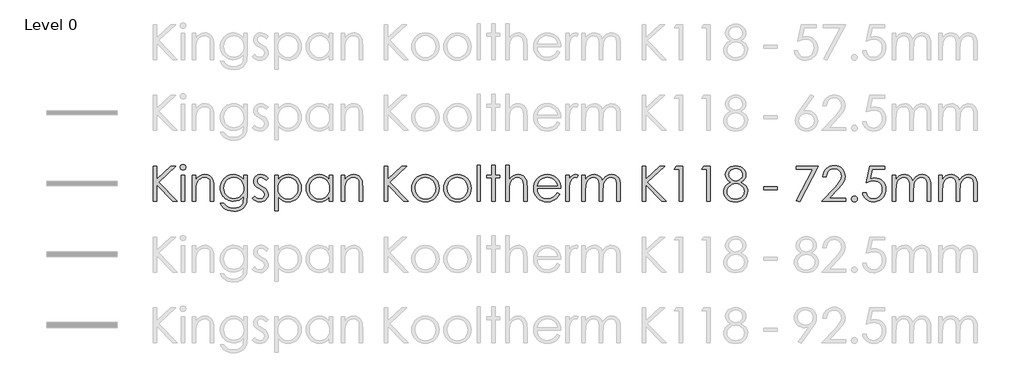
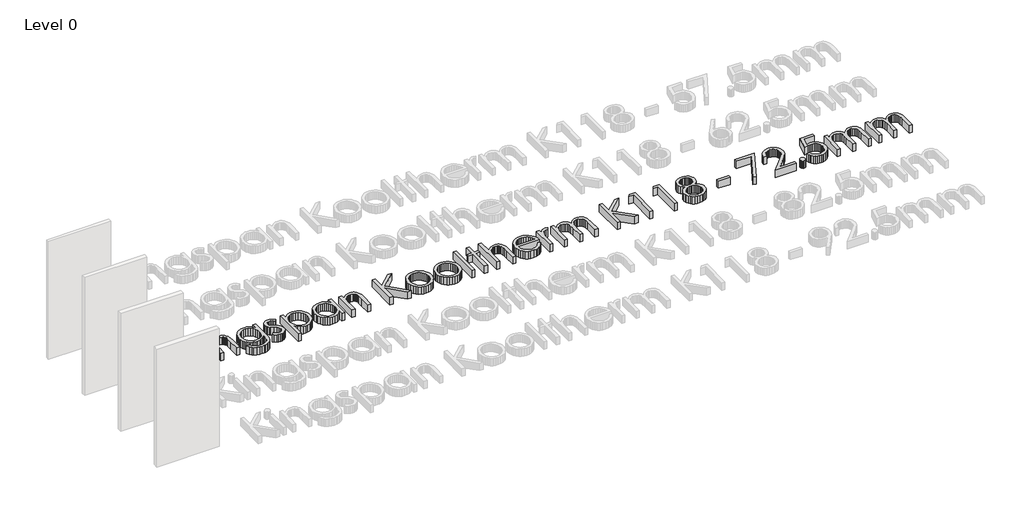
# One storey, part 3 of 8: 1 proxy.
"""IFC4 building model written with IfcOpenShell, lengths in millimetres."""

from ifc_helpers import new_model, si_unit, origin, origin_with_axes, place, context, project, spatial, polyline, outline, extrude, element, save

model = new_model("IFC4")

# Units and contexts
model_context = context("Model", 3, world=origin())
ifc_project = project(units=[si_unit("LENGTHUNIT", "METRE", prefix="MILLI")], contexts=[model_context])

# Site, building, storey
site = spatial("IfcSite", under=ifc_project)
building = spatial("IfcBuilding", under=site)
storey = spatial("IfcBuildingStorey", under=building, Name="Level 0", Elevation=0.0)

# Proxy
placement = place(None, origin())
element("IfcBuildingElementProxy", 1, Name="600mm KI_CenturyGothic", ObjectType="600mm KI_CenturyGothic", at=placement, inside=storey, context=model_context, shape_type="SweptSolid", body=[
    extrude(outline(polyline([(-3852.2663848, -99.1034017), (-3792.944575, -99.1034017), (-3792.944575, -318.316027), (-3555.1938841, -99.1034017), (-3471.6181051, -99.1034017), (-3760.9664119, -366.0515459), (-3441.9572002, -692.3214999), (-3520.8984627, -692.3214999), (-3792.944575, -414.0960325), (-3792.944575, -692.3214999), (-3852.2663848, -692.3214999), (-3852.2663848, -99.1034017)])), origin_with_axes(), (0.0, 0.0, 1.0), 150.0),
    extrude(outline(polyline([(-3348.1854852, -69.4424967), (-3329.145347, -72.7252792), (-3313.1176445, -82.5736265), (-3302.226531, -97.0178693), (-3298.5961598, -114.088338), (-3302.226531, -130.9270809), (-3313.1176445, -145.2940817), (-3329.145347, -155.142429), (-3348.1854852, -158.4252115), (-3366.9938975, -155.142429), (-3382.9443581, -145.2940817), (-3393.8354717, -130.9270809), (-3397.4658428, -114.088338), (-3393.8354717, -97.0178693), (-3382.9443581, -82.5736265), (-3366.9938975, -72.7252792), (-3348.1854852, -69.4424967)])), origin_with_axes(), (0.0, 0.0, 1.0), 150.0),
    extrude(outline(polyline([(-3377.6919062, -247.4079262), (-3318.3700964, -247.4079262), (-3318.3700964, -692.3214999), (-3377.6919062, -692.3214999), (-3377.6919062, -247.4079262)])), origin_with_axes(), (0.0, 0.0, 1.0), 150.0),
    extrude(outline(polyline([(-3189.8395084, -247.4079262), (-3130.5176986, -247.4079262), (-3130.5176986, -326.5036726), (-3096.9946967, -286.9944204), (-3060.0730495, -259.303185), (-3019.7141359, -242.9665147), (-2975.879335, -237.5209579), (-2953.4357238, -239.0995901), (-2932.2955704, -243.8354865), (-2912.4588747, -251.7286472), (-2893.9256368, -262.7790723), (-2877.212412, -276.5039994), (-2862.835756, -292.4206667), (-2841.0921499, -330.8292213), (-2833.6238199, -355.2087086), (-2828.2892984, -385.5551357), (-2824.0216812, -464.1488095), (-2824.0216812, -692.3214999), (-2883.343491, -692.3214999), (-2883.343491, -479.1337458), (-2883.343491, -376.092998), (-2884.7290183, -355.2956057), (-2889.8125035, -337.2403023), (-2898.2849788, -321.9270877), (-2910.1464442, -309.355962), (-2924.7403432, -299.5558909), (-2941.4101193, -292.5558401), (-2980.977303, -286.9557994), (-3005.3471351, -289.1137461), (-3028.4038541, -295.5875862), (-3050.1474602, -306.3773197), (-3070.5779533, -321.4829466), (-3088.6622225, -339.7651482), (-3103.3671568, -360.084606), (-3114.6927562, -382.44132), (-3122.6390208, -406.8352901), (-3128.5480292, -453.9142525), (-3130.5176986, -528.4141035), (-3130.5176986, -692.3214999), (-3189.8395084, -692.3214999), (-3189.8395084, -247.4079262)])), origin_with_axes(), (0.0, 0.0, 1.0), 150.0),
    extrude(outline(polyline([(-2319.7862977, -247.4079262), (-2260.4644879, -247.4079262), (-2260.4644879, -598.395301), (-2264.5196897, -678.6496765), (-2269.588692, -709.4499001), (-2276.6852953, -734.0321474), (-2289.9371156, -762.6454585), (-2307.2924139, -787.7732271), (-2328.7511904, -809.4154531), (-2354.3134448, -827.5721366), (-2383.3226209, -841.9343098), (-2415.122162, -852.1930049), (-2449.7120682, -858.348222), (-2487.0923395, -860.3999611), (-2541.0458345, -856.3833802), (-2589.206184, -844.3336376), (-2630.260275, -825.5059147), (-2662.8949946, -801.1553932), (-2690.2000204, -767.8061856), (-2715.2650299, -721.9824048), (-2655.94322, -721.9824048), (-2642.4355358, -743.151524), (-2627.0933555, -761.3951046), (-2609.9166791, -776.7131468), (-2590.9055067, -789.1056506), (-2569.7894914, -798.6691682), (-2546.2982864, -805.5002523), (-2492.1903075, -810.9651195), (-2438.5071593, -805.6354257), (-2415.083541, -798.9733084), (-2393.93856, -789.6463441), (-2359.6624492, -765.6047903), (-2336.8567664, -736.1176798), (-2329.3884364, -717.4782342), (-2324.0539149, -693.7697863), (-2319.7862977, -631.1458835), (-2319.7862977, -608.4367532), (-2354.757586, -644.2190818), (-2396.6420279, -670.6165148), (-2443.392712, -686.8952536), (-2492.9627269, -692.3214999), (-2522.4063889, -690.4242447), (-2550.9521133, -684.7324793), (-2578.5999001, -675.2462036), (-2605.3497494, -661.9654175), (-2630.1540674, -645.4742634), (-2651.9652601, -626.3568832), (-2670.7833277, -604.6132772), (-2686.6082702, -580.2434451), (-2699.1456025, -553.9280817), (-2708.1008399, -526.3478816), (-2713.4739824, -497.5028447), (-2715.2650299, -467.392971), (-2713.3967404, -437.1044753), (-2707.7918722, -407.8780563), (-2698.4504251, -379.713714), (-2685.3723991, -352.6114483), (-2668.9971079, -327.4257483), (-2649.7638648, -305.0111029), (-2627.67267, -285.367512), (-2602.7235235, -268.4949758), (-2575.9833294, -254.943843), (-2548.5189922, -245.2644624), (-2520.3305117, -239.456834), (-2491.4178881, -237.5209579), (-2444.5320306, -242.4644421), (-2400.8903346, -257.2948945), (-2359.6045177, -283.8661218), (-2319.7862977, -324.0319306), (-2319.7862977, -247.4079262)]), holes=[polyline([(-2484.1571458, -286.9557994), (-2529.0154023, -292.9806707), (-2570.5908765, -311.0552847), (-2606.2187212, -339.7699758), (-2633.2340897, -377.7150788), (-2650.2659375, -421.9940208), (-2655.94322, -469.7102292), (-2653.0080263, -505.6229036), (-2644.2024452, -538.2817613), (-2629.5264766, -567.6868023), (-2608.9801206, -593.8380266), (-2583.7606272, -615.296803), (-2555.0652466, -630.6245004), (-2522.8939786, -639.8211189), (-2487.2468234, -642.8866584), (-2451.3244937, -639.845257), (-2419.1001219, -630.7210528), (-2390.573708, -615.5140459), (-2365.7452519, -594.2242363), (-2345.6382095, -567.9812872), (-2331.2760363, -537.9148621), (-2322.6587323, -504.024961), (-2319.7862977, -466.3115838), (-2325.0773706, -417.6105407), (-2340.9505892, -374.3936754), (-2366.4983608, -338.1672056), (-2400.8130926, -310.4373492), (-2440.9982119, -292.8261869), (-2484.1571458, -286.9557994)])]), origin_with_axes(), (0.0, 0.0, 1.0), 150.0),
    extrude(outline(polyline([(-1904.5336289, -298.6965743), (-1940.9918246, -336.390641), (-1962.9575012, -314.7628978), (-1984.6721416, -299.3145098), (-2006.1357456, -290.045477), (-2027.3483133, -286.9557994), (-2052.181597, -291.6289368), (-2073.2300256, -305.6483489), (-2087.5970264, -325.8857371), (-2092.3860267, -349.212803), (-2088.4466878, -370.7633042), (-2076.628671, -391.2324183), (-2052.0657341, -413.400855), (-2010.2006027, -439.122421), (-1958.3326401, -471.9888664), (-1939.8428507, -487.8138088), (-1926.315856, -503.2332311), (-1909.9791857, -535.9065716), (-1904.5336289, -572.4420092), (-1906.9474396, -598.5884059), (-1914.1888714, -622.6492701), (-1926.2579245, -644.624602), (-1943.1545989, -664.5144015), (-1963.6719892, -681.0055557), (-1986.6031901, -692.7849515), (-2011.9482016, -699.852589), (-2039.7070237, -702.2084682), (-2077.4397114, -698.3270607), (-2113.3958344, -686.6828383), (-2145.4512394, -668.2027042), (-2171.4817731, -643.8135617), (-2135.7959969, -603.3387852), (-2114.0041146, -624.9665283), (-2091.5749863, -640.4149163), (-2068.5086121, -649.6839491), (-2044.8049918, -652.7736267), (-2013.637869, -647.1349651), (-1987.4914724, -630.2189802), (-1969.7644472, -605.6560434), (-1963.8554388, -577.0765256), (-1967.7561567, -553.2860081), (-1979.4583106, -532.2762005), (-2005.0253927, -510.5712154), (-2050.2119275, -483.7682622), (-2099.762632, -453.1032121), (-2117.441381, -437.9444814), (-2130.3890611, -422.9016136), (-2146.3781427, -390.7689666), (-2151.7078365, -354.310771), (-2149.5305794, -330.2643896), (-2142.9988078, -308.3325063), (-2132.1125219, -288.5151211), (-2116.8717217, -270.812234), (-2098.309518, -256.2473007), (-2077.4590218, -245.8437769), (-2054.3202332, -239.6016627), (-2028.8931521, -237.5209579), (-1997.9481, -241.3444339), (-1966.9064954, -252.814862), (-1935.7683384, -271.9322421), (-1904.5336289, -298.6965743)])), origin_with_axes(), (0.0, 0.0, 1.0), 150.0),
    extrude(outline(polyline([(-1795.7769776, -247.4079262), (-1736.4551678, -247.4079262), (-1736.4551678, -328.5119631), (-1700.9238754, -288.2689124), (-1660.4490989, -259.9211205), (-1614.9922173, -243.1209986), (-1564.5146096, -237.5209579), (-1520.0618732, -241.7596094), (-1478.9305402, -254.4755637), (-1441.1206107, -275.668821), (-1406.6320845, -305.3393811), (-1377.9077381, -340.9768811), (-1357.3903478, -380.070958), (-1345.0799137, -422.6216116), (-1340.9764356, -468.628842), (-1345.0412927, -515.5291824), (-1357.235864, -558.7508754), (-1377.5601494, -598.293921), (-1406.014149, -634.1583192), (-1440.2130179, -663.9302594), (-1477.7719111, -685.1959309), (-1518.6908288, -697.9553339), (-1562.9697708, -702.2084682), (-1612.6170277, -696.743601), (-1658.0545988, -680.3489992), (-1699.3211052, -653.1019049), (-1736.4551678, -615.07956), (-1736.4551678, -850.5129928), (-1795.7769776, -850.5129928), (-1795.7769776, -247.4079262)]), holes=[polyline([(-1568.5311905, -286.9557994), (-1602.5852307, -290.2530647), (-1633.8392507, -300.1448607), (-1662.2932503, -316.6311872), (-1687.9472295, -339.7120444), (-1709.1694525, -367.6977647), (-1724.3281832, -398.8986808), (-1733.4234216, -433.3147926), (-1736.4551678, -470.9461002), (-1731.048232, -519.8016272), (-1714.8274246, -563.4819442), (-1688.5265441, -600.3263495), (-1652.8793888, -628.6741414), (-1611.4390881, -646.7487554), (-1567.7587711, -652.7736267), (-1525.0632888, -646.7101344), (-1485.0326535, -628.5196576), (-1450.2544701, -599.4187567), (-1423.3163435, -560.6239924), (-1406.05277, -515.9588407), (-1400.2982454, -469.2467775), (-1405.9948385, -422.3029886), (-1423.0846177, -377.8695627), (-1449.8103289, -339.5189395), (-1484.414718, -310.8235589), (-1524.7157001, -292.9227393), (-1568.5311905, -286.9557994)])]), origin_with_axes(), (0.0, 0.0, 1.0), 150.0),
    extrude(outline(polyline([(-807.0801472, -247.4079262), (-807.0801472, -692.3214999), (-866.401957, -692.3214999), (-866.401957, -616.4699149), (-903.4780882, -654.3184655), (-944.8797679, -681.0441767), (-990.4525125, -696.9173953), (-1040.0418379, -702.2084682), (-1084.3159523, -697.9553339), (-1125.2203871, -685.1959309), (-1162.7551422, -663.9302594), (-1196.9202178, -634.1583192), (-1225.340424, -598.293921), (-1245.6405713, -558.7508754), (-1257.8206597, -515.5291824), (-1261.8806892, -468.628842), (-1257.7820388, -422.6216116), (-1245.4860875, -380.070958), (-1224.9928353, -340.9768811), (-1196.3022822, -305.3393811), (-1161.8475494, -275.668821), (-1124.061758, -254.4755637), (-1082.9449079, -241.7596094), (-1038.4969991, -237.5209579), (-987.7490446, -243.1209986), (-942.0990581, -259.9211205), (-921.2051134, -272.6081091), (-901.6242816, -288.2689124), (-866.401957, -328.5119631), (-866.401957, -247.4079262), (-807.0801472, -247.4079262)]), holes=[polyline([(-1034.3259343, -286.9557994), (-1078.1414247, -292.9227393), (-1118.4424068, -310.8235589), (-1153.0467959, -339.5189395), (-1179.7725071, -377.8695627), (-1196.8622863, -422.3029886), (-1202.5588794, -469.2467775), (-1196.8043548, -515.9588407), (-1179.5407813, -560.6239924), (-1152.6026548, -599.4187567), (-1117.8244713, -628.5196576), (-1077.6779731, -646.7101344), (-1034.6349021, -652.7736267), (-991.0125165, -646.7487554), (-949.7460102, -628.6741414), (-914.2726493, -600.3263495), (-888.0297002, -563.4819442), (-871.8088928, -519.8016272), (-866.401957, -470.9461002), (-869.4337032, -433.3147926), (-878.5289416, -398.8986808), (-893.6876723, -367.6977647), (-914.9098953, -339.7120444), (-940.5638746, -316.6311872), (-969.0178742, -300.1448607), (-1000.2718941, -290.2530647), (-1034.3259343, -286.9557994)])]), origin_with_axes(), (0.0, 0.0, 1.0), 150.0),
    extrude(outline(polyline([(-668.662591, -247.4079262), (-609.3407811, -247.4079262), (-609.3407811, -326.5036726), (-575.8177792, -286.9944204), (-538.896132, -259.303185), (-498.5372184, -242.9665147), (-454.7024175, -237.5209579), (-432.2588064, -239.0995901), (-411.1186529, -243.8354865), (-391.2819572, -251.7286472), (-372.7487193, -262.7790723), (-356.0354946, -276.5039994), (-341.6588385, -292.4206667), (-319.9152324, -330.8292213), (-312.4469024, -355.2087086), (-307.1123809, -385.5551357), (-302.8447637, -464.1488095), (-302.8447637, -692.3214999), (-362.1665735, -692.3214999), (-362.1665735, -479.1337458), (-362.1665735, -376.092998), (-363.5521008, -355.2956057), (-368.635586, -337.2403023), (-377.1080613, -321.9270877), (-388.9695267, -309.355962), (-403.5634257, -299.5558909), (-420.2332018, -292.5558401), (-459.8003855, -286.9557994), (-484.1702176, -289.1137461), (-507.2269366, -295.5875862), (-528.9705427, -306.3773197), (-549.4010358, -321.4829466), (-567.485305, -339.7651482), (-582.1902393, -360.084606), (-593.5158387, -382.44132), (-601.4621033, -406.8352901), (-607.3711117, -453.9142525), (-609.3407811, -528.4141035), (-609.3407811, -692.3214999), (-668.662591, -692.3214999), (-668.662591, -247.4079262)])), origin_with_axes(), (0.0, 0.0, 1.0), 150.0),
    extrude(outline(polyline([(62.9730635, -99.1034017), (122.2948734, -99.1034017), (122.2948734, -318.316027), (360.0455643, -99.1034017), (443.6213432, -99.1034017), (154.2730365, -366.0515459), (473.2822481, -692.3214999), (394.3409856, -692.3214999), (122.2948734, -414.0960325), (122.2948734, -692.3214999), (62.9730635, -692.3214999), (62.9730635, -99.1034017)])), origin_with_axes(), (0.0, 0.0, 1.0), 150.0),
    extrude(outline(polyline([(760.1588128, -237.5209579), (809.4681362, -242.1458191), (854.3553585, -256.0204025), (894.8204798, -279.1447083), (930.8635, -311.5187363), (957.7630055, -346.7507161), (976.9769381, -385.091684), (988.5052976, -426.54164), (992.3480841, -471.1005841), (988.283227, -515.9153921), (976.0886558, -557.8239721), (955.7643703, -596.8263241), (927.3103707, -632.9224481), (892.4742558, -663.2350819), (853.0036246, -684.8869632), (808.8984769, -697.8780919), (760.1588128, -702.2084682), (711.2839754, -697.8780919), (667.0822753, -684.8869632), (627.5537126, -663.2350819), (592.6982872, -632.9224481), (564.2442876, -596.8263241), (543.9200022, -557.8239721), (531.7254309, -515.9153921), (527.6605738, -471.1005841), (531.5033603, -426.7347449), (543.0317198, -385.4006518), (562.2456524, -347.0983049), (589.145158, -311.8277041), (625.2074886, -279.3185026), (665.7305413, -256.0976445), (710.7143161, -242.1651295), (760.1588128, -237.5209579)]), holes=[polyline([(760.004329, -286.9557994), (725.7282181, -290.3303067), (693.9624704, -300.4538284), (664.7070856, -317.3263647), (637.962064, -340.9479154), (615.6584538, -369.3584664), (599.7273037, -400.5980035), (590.1686137, -434.6665266), (586.9823836, -471.5640357), (592.7948396, -519.2995546), (610.2322075, -563.6364281), (637.5758543, -601.4270471), (673.1071466, -629.5238028), (714.6439998, -646.9611707), (760.004329, -652.7736267), (805.3646581, -646.9611707), (846.9015113, -629.5238028), (882.4328037, -601.4270471), (909.7764504, -563.6364281), (927.2138183, -519.2995546), (933.0262743, -471.5640357), (929.8255614, -434.6665266), (920.2234227, -400.5980035), (904.2198583, -369.3584664), (881.8148681, -340.9479154), (854.9974321, -317.3263647), (825.7565303, -300.4538284), (794.0921625, -290.3303067), (760.004329, -286.9557994)])]), origin_with_axes(), (0.0, 0.0, 1.0), 150.0),
    extrude(outline(polyline([(1303.9420695, -237.5209579), (1353.2513929, -242.1458191), (1398.1386152, -256.0204025), (1438.6037365, -279.1447083), (1474.6467567, -311.5187363), (1501.5462622, -346.7507161), (1520.7601948, -385.091684), (1532.2885543, -426.54164), (1536.1313408, -471.1005841), (1532.0664837, -515.9153921), (1519.8719125, -557.8239721), (1499.547627, -596.8263241), (1471.0936274, -632.9224481), (1436.2575126, -663.2350819), (1396.7868813, -684.8869632), (1352.6817336, -697.8780919), (1303.9420695, -702.2084682), (1255.0672321, -697.8780919), (1210.865532, -684.8869632), (1171.3369693, -663.2350819), (1136.4815439, -632.9224481), (1108.0275443, -596.8263241), (1087.7032589, -557.8239721), (1075.5086876, -515.9153921), (1071.4438305, -471.1005841), (1075.286617, -426.7347449), (1086.8149766, -385.4006518), (1106.0289091, -347.0983049), (1132.9284147, -311.8277041), (1168.9907453, -279.3185026), (1209.5137981, -256.0976445), (1254.4975728, -242.1651295), (1303.9420695, -237.5209579)]), holes=[polyline([(1303.7875857, -286.9557994), (1269.5114748, -290.3303067), (1237.7457271, -300.4538284), (1208.4903423, -317.3263647), (1181.7453207, -340.9479154), (1159.4417105, -369.3584664), (1143.5105604, -400.5980035), (1133.9518704, -434.6665266), (1130.7656404, -471.5640357), (1136.5780963, -519.2995546), (1154.0154643, -563.6364281), (1181.359111, -601.4270471), (1216.8904033, -629.5238028), (1258.4272565, -646.9611707), (1303.7875857, -652.7736267), (1349.1479149, -646.9611707), (1390.684768, -629.5238028), (1426.2160604, -601.4270471), (1453.5597071, -563.6364281), (1470.997075, -519.2995546), (1476.809531, -471.5640357), (1473.6088181, -434.6665266), (1464.0066795, -400.5980035), (1448.003115, -369.3584664), (1425.5981249, -340.9479154), (1398.7806889, -317.3263647), (1369.539787, -300.4538284), (1337.8754193, -290.3303067), (1303.7875857, -286.9557994)])]), origin_with_axes(), (0.0, 0.0, 1.0), 150.0),
    extrude(outline(polyline([(1635.0010238, -79.3294651), (1694.3228337, -79.3294651), (1694.3228337, -692.3214999), (1635.0010238, -692.3214999), (1635.0010238, -79.3294651)])), origin_with_axes(), (0.0, 0.0, 1.0), 150.0),
    extrude(outline(polyline([(1882.1752314, -79.3294651), (1941.4970413, -79.3294651), (1941.4970413, -247.4079262), (2020.5927877, -247.4079262), (2020.5927877, -296.8427677), (1941.4970413, -296.8427677), (1941.4970413, -692.3214999), (1882.1752314, -692.3214999), (1882.1752314, -296.8427677), (1803.079485, -296.8427677), (1803.079485, -247.4079262), (1882.1752314, -247.4079262), (1882.1752314, -79.3294651)])), origin_with_axes(), (0.0, 0.0, 1.0), 150.0),
    extrude(outline(polyline([(2119.4624707, -79.3294651), (2178.7842806, -79.3294651), (2178.7842806, -328.0485114), (2212.5583188, -288.3461544), (2249.6151394, -260.0756044), (2289.9161216, -243.1596195), (2333.4226442, -237.5209579), (2355.8662553, -239.0995901), (2377.0064088, -243.8354865), (2396.8431044, -251.7286472), (2415.3763424, -262.7790723), (2432.0895671, -276.4895166), (2446.4662232, -292.3627352), (2468.2098293, -330.5974955), (2475.6781593, -354.9045684), (2481.0126808, -385.2654784), (2485.280298, -464.1488095), (2485.280298, -692.3214999), (2425.9584882, -692.3214999), (2425.9584882, -479.1337458), (2424.5681332, -414.752589), (2420.3970685, -376.092998), (2406.879729, -337.2403023), (2397.1665551, -321.9270877), (2385.4837117, -309.355962), (2371.840854, -299.5558909), (2356.2476374, -292.5558401), (2319.2101273, -286.9557994), (2296.3416854, -289.1137461), (2274.6994594, -295.5875862), (2254.2834492, -306.3773197), (2235.0936547, -321.4829466), (2218.1052556, -339.7651482), (2204.2934312, -360.084606), (2193.6581816, -382.44132), (2186.1995068, -406.8352901), (2180.6380871, -453.6825267), (2178.7842806, -528.4141035), (2178.7842806, -692.3214999), (2119.4624707, -692.3214999), (2119.4624707, -79.3294651)])), origin_with_axes(), (0.0, 0.0, 1.0), 150.0),
    extrude(outline(polyline([(2991.0605203, -544.0169753), (3038.950523, -569.1978477), (3013.3255094, -611.0822896), (2984.0315038, -644.0452875), (2950.952643, -669.1296074), (2913.9730643, -687.3780157), (2872.4941426, -698.5008551), (2825.9172528, -702.2084682), (2774.4258447, -697.7767119), (2728.8627554, -684.481443), (2689.227985, -662.3226615), (2655.5215335, -631.3003674), (2628.6220279, -594.6973431), (2609.4080954, -555.7963712), (2597.8797358, -514.5974515), (2594.0369493, -471.1005841), (2597.3197318, -430.2202874), (2607.1680791, -391.618628), (2623.5819913, -355.2956057), (2646.5614684, -321.2512207), (2682.7493173, -284.6192308), (2724.5758277, -258.4535236), (2772.0409998, -242.7540993), (2825.1448334, -237.5209579), (2879.7935059, -242.8892727), (2928.6490329, -258.9942172), (2971.7114143, -285.8357913), (3008.9806503, -323.4139951), (3030.4539096, -355.585263), (3045.9022976, -391.541386), (3055.3258143, -431.2823641), (3058.7244596, -474.8081972), (2653.3587591, -474.8081972), (2657.095338, -512.0629503), (2666.6057518, -545.8128504), (2681.8900007, -576.0578975), (2702.9480845, -602.7980916), (2728.3124066, -624.6623882), (2756.5153699, -640.2797429), (2787.5569744, -649.6501557), (2821.4372203, -652.7736267), (2854.9602222, -649.761191), (2887.5563208, -640.7238841), (2917.2944677, -626.6851615), (2942.2436143, -608.668479), (2965.725164, -582.5027719), (2991.0605203, -544.0169753)]), holes=[polyline([(2999.4026498, -425.3733557), (2984.9777175, -382.8516678), (2965.1844704, -349.8307385), (2939.0766947, -324.3022774), (2905.7081767, -304.257994), (2867.7630738, -291.2813481), (2827.9255433, -286.9557994), (2795.503239, -289.6689226), (2765.4368139, -297.808292), (2737.726268, -311.3739077), (2712.3716012, -330.3657696), (2695.8321708, -348.179692), (2681.4362043, -369.9522638), (2669.1837016, -395.683485), (2659.0746627, -425.3733557), (2999.4026498, -425.3733557)])]), origin_with_axes(), (0.0, 0.0, 1.0), 150.0),
    extrude(outline(polyline([(3137.820206, -247.4079262), (3197.1420159, -247.4079262), (3197.1420159, -311.8277041), (3222.6897875, -278.7874643), (3249.589293, -255.6728138), (3277.7632906, -242.0589219), (3307.1345382, -237.5209579), (3330.4616041, -241.305813), (3355.3335087, -252.6603781), (3325.8270877, -294.6799934), (3297.2475699, -286.9557994), (3270.8308265, -292.9034288), (3245.3409863, -310.7463169), (3223.2884125, -341.1023993), (3207.183468, -384.5896114), (3199.6523789, -442.7141712), (3197.1420159, -540.1548783), (3197.1420159, -692.3214999), (3137.820206, -692.3214999), (3137.820206, -247.4079262)])), origin_with_axes(), (0.0, 0.0, 1.0), 150.0),
    extrude(outline(polyline([(3414.6553185, -247.4079262), (3473.9771284, -247.4079262), (3473.9771284, -323.5684789), (3503.5607913, -287.0716623), (3533.9168737, -261.9294109), (3577.3268439, -243.6230712), (3622.8995884, -237.5209579), (3653.7384329, -240.668567), (3682.9165757, -250.1113941), (3708.6767627, -264.7873627), (3729.2617397, -283.634396), (3746.0425511, -309.0663047), (3760.3902414, -343.4968994), (3775.16759, -319.0981017), (3791.6925376, -297.808292), (3809.965084, -279.6274704), (3829.9852293, -264.5556369), (3851.2798666, -252.7279648), (3873.375889, -244.2796277), (3896.2732965, -239.2106253), (3919.9720892, -237.5209579), (3962.3006723, -243.3334139), (3981.4952943, -250.5989839), (3999.3768034, -260.7707818), (4015.4914031, -273.53984), (4029.385297, -288.5971907), (4050.5109676, -325.5767694), (4057.8103309, -348.9521114), (4063.0241619, -377.5219739), (4067.1952266, -450.2452603), (4067.1952266, -692.3214999), (4007.8734168, -692.3214999), (4007.8734168, -446.6921311), (4005.4209852, -385.5744462), (3998.0636904, -347.1272706), (3984.7587663, -322.6608861), (3964.4634466, -303.4855746), (3938.3942919, -291.0882432), (3907.7678627, -286.9557994), (3888.1194443, -288.5054659), (3869.3399976, -293.1544651), (3834.3880198, -311.7504621), (3805.6540182, -340.6968791), (3785.8800816, -377.9468046), (3779.1889985, -402.1042213), (3774.4096535, -433.1747916), (3770.5861775, -516.0553931), (3770.5861775, -692.3214999), (3711.2643677, -692.3214999), (3711.2643677, -461.9860352), (3708.850557, -393.530366), (3701.6091252, -351.2983353), (3688.3621325, -325.0553863), (3667.9316394, -304.5669617), (3641.6114484, -291.35859), (3610.6953619, -286.9557994), (3573.7544042, -292.9999812), (3539.2465676, -311.1325266), (3510.2808401, -339.499629), (3489.9662099, -376.2474819), (3477.9743988, -428.0768236), (3473.9771284, -501.6883923), (3473.9771284, -692.3214999), (3414.6553185, -692.3214999), (3414.6553185, -247.4079262)])), origin_with_axes(), (0.0, 0.0, 1.0), 150.0),
    extrude(outline(polyline([(4433.0130538, -99.1034017), (4492.3348637, -99.1034017), (4492.3348637, -318.316027), (4730.0855546, -99.1034017), (4813.6613335, -99.1034017), (4524.3130268, -366.0515459), (4843.3222385, -692.3214999), (4764.3809759, -692.3214999), (4492.3348637, -414.0960325), (4492.3348637, -692.3214999), (4433.0130538, -692.3214999), (4433.0130538, -99.1034017)])), origin_with_axes(), (0.0, 0.0, 1.0), 150.0),
    extrude(outline(polyline([(5010.6282802, -99.1034017), (5125.1008351, -99.1034017), (5125.1008351, -692.3214999), (5065.7790253, -692.3214999), (5065.7790253, -148.5382432), (4976.7963106, -148.5382432), (5010.6282802, -99.1034017)])), origin_with_axes(), (0.0, 0.0, 1.0), 150.0),
    extrude(outline(polyline([(5475.3157905, -99.1034017), (5589.7883454, -99.1034017), (5589.7883454, -692.3214999), (5530.4665356, -692.3214999), (5530.4665356, -148.5382432), (5441.4838208, -148.5382432), (5475.3157905, -99.1034017)])), origin_with_axes(), (0.0, 0.0, 1.0), 150.0),
    extrude(outline(polyline([(6107.7727942, -368.2143202), (6159.8724826, -399.6131687), (6179.6946955, -416.8477766), (6195.365154, -435.1058401), (6207.2604128, -454.5225327), (6215.7570261, -475.2330279), (6220.8549942, -497.2373255), (6222.5543169, -520.5354256), (6219.734986, -553.2184214), (6211.2769936, -583.9124373), (6197.1803396, -612.6174732), (6177.445024, -639.3335291), (6146.7510081, -666.841315), (6110.1286734, -686.4897334), (6067.5780197, -698.2787845), (6019.0990472, -702.2084682), (5972.4352603, -698.756719), (5931.7770342, -688.4014714), (5897.1243689, -671.1427255), (5868.4772645, -646.9804812), (5846.0384809, -618.6664826), (5830.0107784, -588.9524739), (5820.3941569, -557.838455), (5817.1886164, -525.3244259), (5818.9024219, -501.5966675), (5824.0438386, -479.0758144), (5832.6128663, -457.7618666), (5844.609505, -437.6548241), (5860.5068618, -418.6871003), (5880.7780434, -400.7911083), (5905.4230498, -383.9668483), (5934.4418811, -368.2143202), (5896.0719475, -343.2651736), (5868.7089903, -312.9090912), (5852.3143886, -278.6522909), (5846.8495213, -242.0009904), (5852.6426668, -204.2876133), (5870.0221033, -167.4625184), (5897.6360968, -134.9436618), (5934.1329134, -110.1489991), (5976.7318432, -94.4495748), (6022.6521765, -89.2164334), (6067.3945701, -94.4881958), (6108.6224555, -110.3034829), (6143.8254696, -135.1753876), (6170.4932494, -167.6170023), (6187.2933713, -204.7510649), (6192.8934119, -243.7003131), (6187.5830286, -281.2398959), (6171.6518785, -314.45393), (6145.0613407, -343.4196575), (6107.7727942, -368.2143202)]), holes=[polyline([(6022.9611442, -395.7124508), (5993.0926516, -398.2228138), (5965.7441773, -405.753903), (5940.9157212, -418.3057182), (5918.6072834, -435.8782595), (5900.1899084, -456.7818595), (5887.0346405, -479.3268507), (5879.1414798, -503.5132331), (5876.5104262, -529.3410068), (5881.0097692, -561.4543433), (5894.5077982, -591.6752522), (5916.0776099, -617.6092335), (5944.7923011, -636.8617871), (5979.6670369, -648.7956668), (6019.7169827, -652.7736267), (6050.9372093, -650.3549884), (6078.7877563, -643.0990737), (6103.2686236, -631.0058825), (6124.3798113, -614.0754148), (6141.3778657, -593.9104409), (6153.5193331, -572.113731), (6160.8042135, -548.6852851), (6163.232507, -523.6251032), (6160.6642125, -499.2938921), (6152.959329, -476.353036), (6140.1178565, -454.8025348), (6122.139795, -434.6423885), (6100.5313623, -417.6105407), (6076.7987763, -405.4449352), (6050.9420369, -398.1455719), (6022.9611442, -395.7124508)]), polyline([(6019.7169827, -138.6512749), (5996.2112949, -140.5099091), (5974.8201052, -146.0858116), (5955.5434136, -155.3789825), (5938.3812201, -168.3894217), (5924.2893937, -183.9778107), (5914.2238034, -201.0048308), (5908.1844492, -219.4704821), (5906.1713311, -239.3747645), (5908.3389331, -259.2838745), (5914.8417389, -278.2274602), (5925.6797486, -296.2055217), (5940.8529621, -313.218059), (5958.9130932, -327.6816122), (5978.4118554, -338.0127217), (5999.3492487, -344.2113874), (6021.7252732, -346.2776093), (6050.4399643, -342.5313752), (6077.5711957, -331.2926729), (6101.0334349, -313.5463372), (6118.7411497, -290.2772028), (6129.863989, -264.2273586), (6133.5716021, -238.1388934), (6131.7467613, -219.9677271), (6126.2722388, -202.5303592), (6117.1480347, -185.8267897), (6104.3741488, -169.8570186), (6088.134031, -156.2045057), (6068.6111307, -146.4527108), (6045.8054479, -140.6016339), (6019.7169827, -138.6512749)])]), origin_with_axes(), (0.0, 0.0, 1.0), 150.0),
    extrude(outline(polyline([(6499.3894294, -445.1472923), (6726.7897004, -445.1472923), (6726.7897004, -494.5821338), (6499.3894294, -494.5821338), (6499.3894294, -445.1472923)])), origin_with_axes(), (0.0, 0.0, 1.0), 150.0),
    extrude(outline(polyline([(7043.1726861, -99.1034017), (7418.8774816, -99.1034017), (7102.4944959, -702.2084682), (7048.5796219, -679.8083056), (7327.2685409, -148.5382432), (7043.1726861, -148.5382432), (7043.1726861, -99.1034017)])), origin_with_axes(), (0.0, 0.0, 1.0), 150.0),
    extrude(outline(polyline([(7557.2950379, -277.0688311), (7497.9732281, -277.0688311), (7502.4580882, -237.8106152), (7513.5954104, -202.2213914), (7531.3851947, -170.3011597), (7555.827441, -142.0499202), (7585.2228268, -118.9352697), (7617.8720292, -102.4248051), (7653.7750484, -92.5185263), (7692.9318843, -89.2164334), (7731.403198, -92.5136987), (7766.0220699, -102.4054946), (7796.7885001, -118.8918211), (7823.7024885, -141.9726783), (7845.5667851, -169.533568), (7861.1841398, -199.459992), (7870.5545527, -231.7519505), (7873.6780236, -266.4094434), (7867.5952208, -315.2070389), (7849.3468125, -360.8763359), (7813.5644839, -412.763609), (7754.8799201, -480.215133), (7602.095363, -642.8866584), (7883.5649919, -642.8866584), (7883.5649919, -692.3214999), (7478.1992914, -692.3214999), (7704.2092075, -451.6356152), (7760.9434124, -386.1151397), (7793.6553739, -340.0210121), (7809.1810038, -302.6552237), (7814.3562138, -263.3197658), (7812.1065423, -238.7133804), (7805.3575278, -215.8739043), (7794.1091703, -194.8013375), (7778.3614698, -175.4956802), (7759.3502973, -159.3762529), (7738.311524, -147.8623762), (7715.2451497, -140.9540502), (7690.1511745, -138.6512749), (7663.8165006, -140.9250845), (7639.8087401, -147.7465133), (7618.1278932, -159.1155613), (7598.7739596, -175.0322286), (7582.5386694, -195.0523738), (7570.2137523, -218.731856), (7561.7992085, -246.0706751), (7557.2950379, -277.0688311)])), origin_with_axes(), (0.0, 0.0, 1.0), 150.0),
    extrude(outline(polyline([(8031.8695165, -603.3387852), (8050.8903442, -606.9305354), (8066.8601152, -617.705786), (8077.6932973, -633.6562466), (8081.304358, -652.7736267), (8077.6932973, -671.6979019), (8066.8601152, -687.6869835), (8050.8903442, -698.578097), (8031.8695165, -702.2084682), (8012.8486888, -698.578097), (7996.8789177, -687.6869835), (7986.0457356, -671.6979019), (7982.4346749, -652.7736267), (7986.0457356, -633.6562466), (7996.8789177, -617.705786), (8012.8486888, -606.9305354), (8031.8695165, -603.3387852)])), origin_with_axes(), (0.0, 0.0, 1.0), 150.0),
    extrude(outline(polyline([(8545.9918683, -99.1034017), (8545.9918683, -148.5382432), (8338.6745016, -148.5382432), (8304.2245965, -309.5104459), (8341.8028002, -300.0096873), (8375.441665, -296.8427677), (8415.0281592, -300.2655512), (8450.9842822, -310.5339016), (8483.3100341, -327.6478189), (8512.0054147, -351.6073031), (8535.5255854, -380.9157917), (8552.3257073, -414.076722), (8562.4057805, -451.090094), (8565.7658049, -491.9559079), (8564.0423441, -520.9216353), (8558.8719617, -548.6514917), (8550.2546578, -575.1454771), (8538.1904323, -600.4035914), (8523.1861855, -623.6051391), (8505.7488176, -643.9294246), (8485.8783286, -661.3764477), (8463.5747184, -675.9462086), (8439.1421273, -687.4359472), (8412.8846954, -695.6429033), (8384.8024226, -700.567077), (8354.895309, -702.2084682), (8319.5619491, -699.4518965), (8287.0961963, -691.1821813), (8257.4980505, -677.3993226), (8230.7675116, -658.1033205), (8208.0149327, -634.4334936), (8190.3506666, -607.5291604), (8177.7747133, -577.390321), (8170.2870727, -544.0169753), (8229.6088825, -544.0169753), (8239.1868831, -576.7482474), (8253.7083678, -602.6436077), (8273.5402358, -622.9582379), (8299.0493865, -638.9473194), (8328.0730454, -649.3170499), (8358.4484383, -652.7736267), (8387.7376163, -649.8480882), (8414.8929858, -641.0714728), (8439.9145467, -626.4437804), (8462.802299, -605.9650111), (8481.895541, -581.0931065), (8495.533571, -553.2860081), (8503.716389, -522.543716), (8506.4439951, -488.8662303), (8503.9819082, -458.6791146), (8496.5956477, -431.4561585), (8484.2852135, -407.1973617), (8467.0506057, -385.9027244), (8445.6932093, -368.5667365), (8421.0144096, -356.183888), (8393.0142063, -348.754179), (8361.6925997, -346.2776093), (8332.9875638, -348.1314158), (8301.4052657, -353.6928355), (8229.6088825, -375.9385142), (8288.9306924, -99.1034017), (8545.9918683, -99.1034017)])), origin_with_axes(), (0.0, 0.0, 1.0), 150.0),
    extrude(outline(polyline([(8674.5224562, -247.4079262), (8733.844266, -247.4079262), (8733.844266, -323.5684789), (8763.427929, -287.0716623), (8793.7840114, -261.9294109), (8837.1939816, -243.6230712), (8882.7667261, -237.5209579), (8913.6055706, -240.668567), (8942.7837134, -250.1113941), (8968.5439003, -264.7873627), (8989.1288773, -283.634396), (9005.9096888, -309.0663047), (9020.2573791, -343.4968994), (9035.0347277, -319.0981017), (9051.5596752, -297.808292), (9069.8322216, -279.6274704), (9089.8523669, -264.5556369), (9111.1470042, -252.7279648), (9133.2430266, -244.2796277), (9156.1404342, -239.2106253), (9179.8392269, -237.5209579), (9222.1678099, -243.3334139), (9241.362432, -250.5989839), (9259.2439411, -260.7707818), (9275.3585408, -273.53984), (9289.2524347, -288.5971907), (9310.3781053, -325.5767694), (9317.6774686, -348.9521114), (9322.8912995, -377.5219739), (9327.0623643, -450.2452603), (9327.0623643, -692.3214999), (9267.7405545, -692.3214999), (9267.7405545, -446.6921311), (9265.2881229, -385.5744462), (9257.9308281, -347.1272706), (9244.6259039, -322.6608861), (9224.3305842, -303.4855746), (9198.2614295, -291.0882432), (9167.6350004, -286.9557994), (9147.9865819, -288.5054659), (9129.2071353, -293.1544651), (9094.2551575, -311.7504621), (9065.5211559, -340.6968791), (9045.7472193, -377.9468046), (9039.0561362, -402.1042213), (9034.2767912, -433.1747916), (9030.4533152, -516.0553931), (9030.4533152, -692.3214999), (8971.1315053, -692.3214999), (8971.1315053, -461.9860352), (8968.7176947, -393.530366), (8961.4762628, -351.2983353), (8948.2292702, -325.0553863), (8927.7987771, -304.5669617), (8901.4785861, -291.35859), (8870.5624996, -286.9557994), (8833.6215419, -292.9999812), (8799.1137052, -311.1325266), (8770.1479778, -339.499629), (8749.8333476, -376.2474819), (8737.8415364, -428.0768236), (8733.844266, -501.6883923), (8733.844266, -692.3214999), (8674.5224562, -692.3214999), (8674.5224562, -247.4079262)])), origin_with_axes(), (0.0, 0.0, 1.0), 150.0),
    extrude(outline(polyline([(9465.4799205, -247.4079262), (9524.8017304, -247.4079262), (9524.8017304, -323.5684789), (9554.3853933, -287.0716623), (9584.7414757, -261.9294109), (9628.1514459, -243.6230712), (9673.7241904, -237.5209579), (9704.5630349, -240.668567), (9733.7411777, -250.1113941), (9759.5013647, -264.7873627), (9780.0863416, -283.634396), (9796.8671531, -309.0663047), (9811.2148434, -343.4968994), (9825.992192, -319.0981017), (9842.5171395, -297.808292), (9860.7896859, -279.6274704), (9880.8098312, -264.5556369), (9902.1044685, -252.7279648), (9924.200491, -244.2796277), (9947.0978985, -239.2106253), (9970.7966912, -237.5209579), (10013.1252742, -243.3334139), (10032.3198963, -250.5989839), (10050.2014054, -260.7707818), (10066.3160051, -273.53984), (10080.209899, -288.5971907), (10101.3355696, -325.5767694), (10108.6349329, -348.9521114), (10113.8487638, -377.5219739), (10118.0198286, -450.2452603), (10118.0198286, -692.3214999), (10058.6980188, -692.3214999), (10058.6980188, -446.6921311), (10056.2455872, -385.5744462), (10048.8882924, -347.1272706), (10035.5833683, -322.6608861), (10015.2880486, -303.4855746), (9989.2188938, -291.0882432), (9958.5924647, -286.9557994), (9938.9440462, -288.5054659), (9920.1645996, -293.1544651), (9885.2126218, -311.7504621), (9856.4786202, -340.6968791), (9836.7046836, -377.9468046), (9830.0136005, -402.1042213), (9825.2342555, -433.1747916), (9821.4107795, -516.0553931), (9821.4107795, -692.3214999), (9762.0889696, -692.3214999), (9762.0889696, -461.9860352), (9759.675159, -393.530366), (9752.4337272, -351.2983353), (9739.1867345, -325.0553863), (9718.7562414, -304.5669617), (9692.4360504, -291.35859), (9661.5199639, -286.9557994), (9624.5790062, -292.9999812), (9590.0711695, -311.1325266), (9561.1054421, -339.499629), (9540.7908119, -376.2474819), (9528.7990007, -428.0768236), (9524.8017304, -501.6883923), (9524.8017304, -692.3214999), (9465.4799205, -692.3214999), (9465.4799205, -247.4079262)])), origin_with_axes(), (0.0, 0.0, 1.0), 150.0),
])

save(model, "model.ifc")
